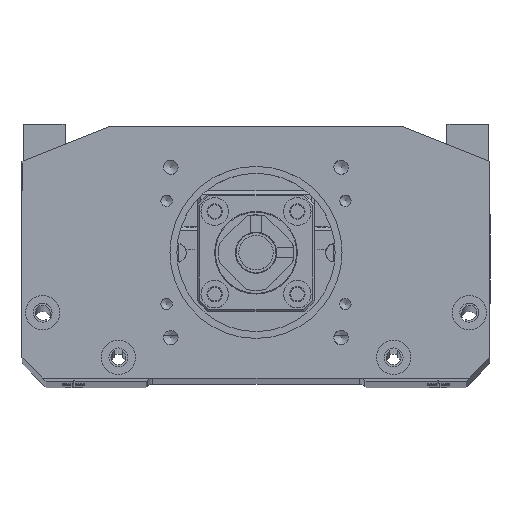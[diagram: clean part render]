
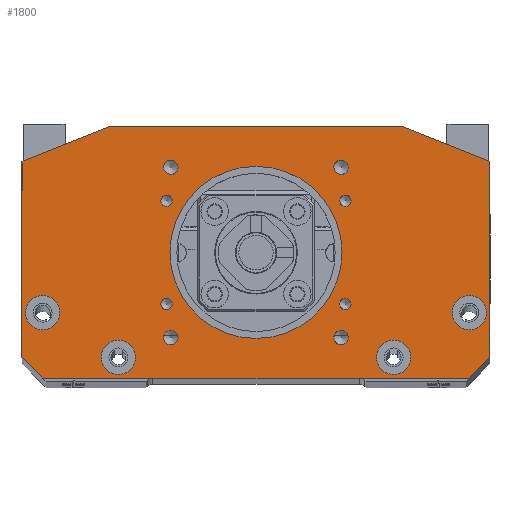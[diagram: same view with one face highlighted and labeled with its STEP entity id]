
A CAD part, top view. The second image highlights one B-rep face of the part: STEP entity #1800.
In plain terms, the highlighted planar face has unit normal (0, 0, 1).
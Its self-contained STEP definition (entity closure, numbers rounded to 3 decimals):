
#390=FACE_BOUND('',#3608,.T.);
#391=FACE_BOUND('',#3609,.T.);
#392=FACE_BOUND('',#3610,.T.);
#393=FACE_BOUND('',#3611,.T.);
#394=FACE_BOUND('',#3612,.T.);
#395=FACE_BOUND('',#3613,.T.);
#396=FACE_BOUND('',#3614,.T.);
#397=FACE_BOUND('',#3615,.T.);
#398=FACE_BOUND('',#3616,.T.);
#399=FACE_BOUND('',#3617,.T.);
#400=FACE_BOUND('',#3618,.T.);
#401=FACE_BOUND('',#3619,.T.);
#402=FACE_BOUND('',#3620,.T.);
#403=FACE_BOUND('',#3621,.T.);
#1800=ADVANCED_FACE('9',(#390,#391,#392,#393,#394,#395,#396,#397,#398,#399,
#400,#401,#402,#403),#2460,.T.);
#2460=PLANE('',#15215);
#3608=EDGE_LOOP('',(#6752));
#3609=EDGE_LOOP('',(#6753));
#3610=EDGE_LOOP('',(#6754));
#3611=EDGE_LOOP('',(#6755));
#3612=EDGE_LOOP('',(#6756));
#3613=EDGE_LOOP('',(#6757));
#3614=EDGE_LOOP('',(#6758));
#3615=EDGE_LOOP('',(#6759));
#3616=EDGE_LOOP('',(#6760));
#3617=EDGE_LOOP('',(#6761));
#3618=EDGE_LOOP('',(#6762));
#3619=EDGE_LOOP('',(#6763));
#3620=EDGE_LOOP('',(#6764));
#3621=EDGE_LOOP('',(#6765,#6766,#6767,#6768,#6769,#6770,#6771,#6772));
#4812=CIRCLE('',#15153,1.65);
#4814=CIRCLE('',#15157,1.65);
#4816=CIRCLE('',#15161,1.65);
#4818=CIRCLE('',#15165,1.65);
#4820=CIRCLE('',#15169,2.1);
#4822=CIRCLE('',#15173,2.1);
#4824=CIRCLE('',#15177,2.1);
#4826=CIRCLE('',#15181,2.1);
#4828=CIRCLE('',#15185,25.);
#4830=CIRCLE('',#15188,5.);
#4834=CIRCLE('',#15194,5.);
#4838=CIRCLE('',#15200,5.);
#4842=CIRCLE('',#15206,5.);
#6752=ORIENTED_EDGE('',*,*,#11589,.F.);
#6753=ORIENTED_EDGE('',*,*,#11591,.F.);
#6754=ORIENTED_EDGE('',*,*,#11593,.F.);
#6755=ORIENTED_EDGE('',*,*,#11595,.F.);
#6756=ORIENTED_EDGE('',*,*,#11597,.F.);
#6757=ORIENTED_EDGE('',*,*,#11599,.F.);
#6758=ORIENTED_EDGE('',*,*,#11601,.F.);
#6759=ORIENTED_EDGE('',*,*,#11603,.F.);
#6760=ORIENTED_EDGE('',*,*,#11605,.F.);
#6761=ORIENTED_EDGE('',*,*,#11607,.F.);
#6762=ORIENTED_EDGE('',*,*,#11611,.F.);
#6763=ORIENTED_EDGE('',*,*,#11615,.F.);
#6764=ORIENTED_EDGE('',*,*,#11619,.F.);
#6765=ORIENTED_EDGE('',*,*,#10974,.F.);
#6766=ORIENTED_EDGE('',*,*,#11628,.T.);
#6767=ORIENTED_EDGE('',*,*,#11627,.F.);
#6768=ORIENTED_EDGE('',*,*,#11629,.T.);
#6769=ORIENTED_EDGE('',*,*,#11031,.F.);
#6770=ORIENTED_EDGE('',*,*,#11016,.T.);
#6771=ORIENTED_EDGE('',*,*,#11002,.F.);
#6772=ORIENTED_EDGE('',*,*,#10987,.T.);
#9494=VERTEX_POINT('',#21217);
#9495=VERTEX_POINT('',#21219);
#9501=VERTEX_POINT('',#21240);
#9511=VERTEX_POINT('',#21268);
#9519=VERTEX_POINT('',#21293);
#9527=VERTEX_POINT('',#21318);
#9897=VERTEX_POINT('',#23592);
#9900=VERTEX_POINT('',#23599);
#9903=VERTEX_POINT('',#23606);
#9906=VERTEX_POINT('',#23613);
#9909=VERTEX_POINT('',#23620);
#9912=VERTEX_POINT('',#23627);
#9915=VERTEX_POINT('',#23634);
#9918=VERTEX_POINT('',#23641);
#9921=VERTEX_POINT('',#23648);
#9923=VERTEX_POINT('',#23653);
#9926=VERTEX_POINT('',#23662);
#9929=VERTEX_POINT('',#23671);
#9932=VERTEX_POINT('',#23680);
#9936=VERTEX_POINT('',#23692);
#9938=VERTEX_POINT('',#23696);
#10974=EDGE_CURVE('',#9494,#9495,#12788,.T.);
#10987=EDGE_CURVE('',#9501,#9495,#12799,.T.);
#11002=EDGE_CURVE('',#9501,#9511,#12812,.T.);
#11016=EDGE_CURVE('',#9519,#9511,#12824,.T.);
#11031=EDGE_CURVE('',#9519,#9527,#12837,.T.);
#11589=EDGE_CURVE('',#9897,#9897,#4812,.T.);
#11591=EDGE_CURVE('',#9900,#9900,#4814,.T.);
#11593=EDGE_CURVE('',#9903,#9903,#4816,.T.);
#11595=EDGE_CURVE('',#9906,#9906,#4818,.T.);
#11597=EDGE_CURVE('',#9909,#9909,#4820,.T.);
#11599=EDGE_CURVE('',#9912,#9912,#4822,.T.);
#11601=EDGE_CURVE('',#9915,#9915,#4824,.T.);
#11603=EDGE_CURVE('',#9918,#9918,#4826,.T.);
#11605=EDGE_CURVE('',#9921,#9921,#4828,.T.);
#11607=EDGE_CURVE('',#9923,#9923,#4830,.T.);
#11611=EDGE_CURVE('',#9926,#9926,#4834,.T.);
#11615=EDGE_CURVE('',#9929,#9929,#4838,.T.);
#11619=EDGE_CURVE('',#9932,#9932,#4842,.T.);
#11627=EDGE_CURVE('',#9938,#9936,#13108,.T.);
#11628=EDGE_CURVE('',#9494,#9936,#13109,.T.);
#11629=EDGE_CURVE('',#9938,#9527,#13110,.T.);
#12788=LINE('',#21218,#13785);
#12799=LINE('',#21239,#13796);
#12812=LINE('',#21267,#13809);
#12824=LINE('',#21292,#13821);
#12837=LINE('',#21317,#13834);
#13108=LINE('',#23697,#14105);
#13109=LINE('',#23699,#14106);
#13110=LINE('',#23700,#14107);
#13785=VECTOR('',#16821,1.);
#13796=VECTOR('',#16840,1.);
#13809=VECTOR('',#16863,1.);
#13821=VECTOR('',#16885,1.);
#13834=VECTOR('',#16906,1.);
#14105=VECTOR('',#18035,1.);
#14106=VECTOR('',#18038,1.);
#14107=VECTOR('',#18039,1.);
#15153=AXIS2_PLACEMENT_3D('',#23591,#17910,#17911);
#15157=AXIS2_PLACEMENT_3D('',#23598,#17918,#17919);
#15161=AXIS2_PLACEMENT_3D('',#23605,#17926,#17927);
#15165=AXIS2_PLACEMENT_3D('',#23612,#17934,#17935);
#15169=AXIS2_PLACEMENT_3D('',#23619,#17942,#17943);
#15173=AXIS2_PLACEMENT_3D('',#23626,#17950,#17951);
#15177=AXIS2_PLACEMENT_3D('',#23633,#17958,#17959);
#15181=AXIS2_PLACEMENT_3D('',#23640,#17966,#17967);
#15185=AXIS2_PLACEMENT_3D('',#23647,#17974,#17975);
#15188=AXIS2_PLACEMENT_3D('',#23652,#17980,#17981);
#15194=AXIS2_PLACEMENT_3D('',#23661,#17992,#17993);
#15200=AXIS2_PLACEMENT_3D('',#23670,#18004,#18005);
#15206=AXIS2_PLACEMENT_3D('',#23679,#18016,#18017);
#15215=AXIS2_PLACEMENT_3D('',#23701,#18040,#18041);
#16821=DIRECTION('',(0.,-1.,0.));
#16840=DIRECTION('',(0.707,0.707,0.));
#16863=DIRECTION('',(-1.,0.,0.));
#16885=DIRECTION('',(0.707,-0.707,0.));
#16906=DIRECTION('',(0.,1.,0.));
#17910=DIRECTION('',(0.,0.,1.));
#17911=DIRECTION('',(1.,0.,0.));
#17918=DIRECTION('',(0.,0.,1.));
#17919=DIRECTION('',(1.,0.,0.));
#17926=DIRECTION('',(0.,0.,1.));
#17927=DIRECTION('',(1.,0.,0.));
#17934=DIRECTION('',(0.,0.,1.));
#17935=DIRECTION('',(1.,0.,0.));
#17942=DIRECTION('',(0.,0.,1.));
#17943=DIRECTION('',(1.,0.,0.));
#17950=DIRECTION('',(0.,0.,1.));
#17951=DIRECTION('',(1.,0.,0.));
#17958=DIRECTION('',(0.,0.,1.));
#17959=DIRECTION('',(1.,0.,0.));
#17966=DIRECTION('',(0.,0.,1.));
#17967=DIRECTION('',(1.,0.,0.));
#17974=DIRECTION('',(0.,0.,1.));
#17975=DIRECTION('',(1.,0.,0.));
#17980=DIRECTION('',(0.,0.,1.));
#17981=DIRECTION('',(1.,0.,0.));
#17992=DIRECTION('',(0.,0.,1.));
#17993=DIRECTION('',(1.,0.,0.));
#18004=DIRECTION('',(0.,0.,1.));
#18005=DIRECTION('',(1.,0.,0.));
#18016=DIRECTION('',(0.,0.,1.));
#18017=DIRECTION('',(1.,0.,0.));
#18035=DIRECTION('',(1.,0.,0.));
#18038=DIRECTION('',(-0.928,0.371,0.));
#18039=DIRECTION('',(-0.928,-0.371,0.));
#18040=DIRECTION('',(0.,0.,1.));
#18041=DIRECTION('',(-1.,0.,0.));
#21217=CARTESIAN_POINT('',(68.,63.,180.));
#21218=CARTESIAN_POINT('',(68.,0.,180.));
#21219=CARTESIAN_POINT('',(68.,6.,180.));
#21239=CARTESIAN_POINT('',(49.25,-12.75,180.));
#21240=CARTESIAN_POINT('',(62.,0.,180.));
#21267=CARTESIAN_POINT('',(68.,0.,180.));
#21268=CARTESIAN_POINT('',(-62.,0.,180.));
#21292=CARTESIAN_POINT('',(-49.25,-12.75,180.));
#21293=CARTESIAN_POINT('',(-68.,6.,180.));
#21317=CARTESIAN_POINT('',(-68.,0.,180.));
#21318=CARTESIAN_POINT('',(-68.,63.,180.));
#23591=CARTESIAN_POINT('',(25.981,51.5,180.));
#23592=CARTESIAN_POINT('',(27.631,51.5,180.));
#23598=CARTESIAN_POINT('',(25.981,21.5,180.));
#23599=CARTESIAN_POINT('',(27.631,21.5,180.));
#23605=CARTESIAN_POINT('',(-25.981,21.5,180.));
#23606=CARTESIAN_POINT('',(-24.331,21.5,180.));
#23612=CARTESIAN_POINT('',(-25.981,51.5,180.));
#23613=CARTESIAN_POINT('',(-24.331,51.5,180.));
#23619=CARTESIAN_POINT('',(-24.749,61.249,180.));
#23620=CARTESIAN_POINT('',(-22.649,61.249,180.));
#23626=CARTESIAN_POINT('',(24.749,61.249,180.));
#23627=CARTESIAN_POINT('',(26.849,61.249,180.));
#23633=CARTESIAN_POINT('',(24.749,11.751,180.));
#23634=CARTESIAN_POINT('',(26.849,11.751,180.));
#23640=CARTESIAN_POINT('',(-24.749,11.751,180.));
#23641=CARTESIAN_POINT('',(-22.649,11.751,180.));
#23647=CARTESIAN_POINT('',(0.,36.5,180.));
#23648=CARTESIAN_POINT('',(25.,36.5,180.));
#23652=CARTESIAN_POINT('',(-62.,19.,180.));
#23653=CARTESIAN_POINT('',(-57.,19.,180.));
#23661=CARTESIAN_POINT('',(62.,19.,180.));
#23662=CARTESIAN_POINT('',(67.,19.,180.));
#23670=CARTESIAN_POINT('',(-40.,6.,180.));
#23671=CARTESIAN_POINT('',(-35.,6.,180.));
#23679=CARTESIAN_POINT('',(40.,6.,180.));
#23680=CARTESIAN_POINT('',(45.,6.,180.));
#23692=CARTESIAN_POINT('',(43.,73.,180.));
#23696=CARTESIAN_POINT('',(-43.,73.,180.));
#23697=CARTESIAN_POINT('',(68.,73.,180.));
#23699=CARTESIAN_POINT('',(18.517,82.793,180.));
#23700=CARTESIAN_POINT('',(-18.517,82.793,180.));
#23701=CARTESIAN_POINT('',(0.,36.5,180.));
